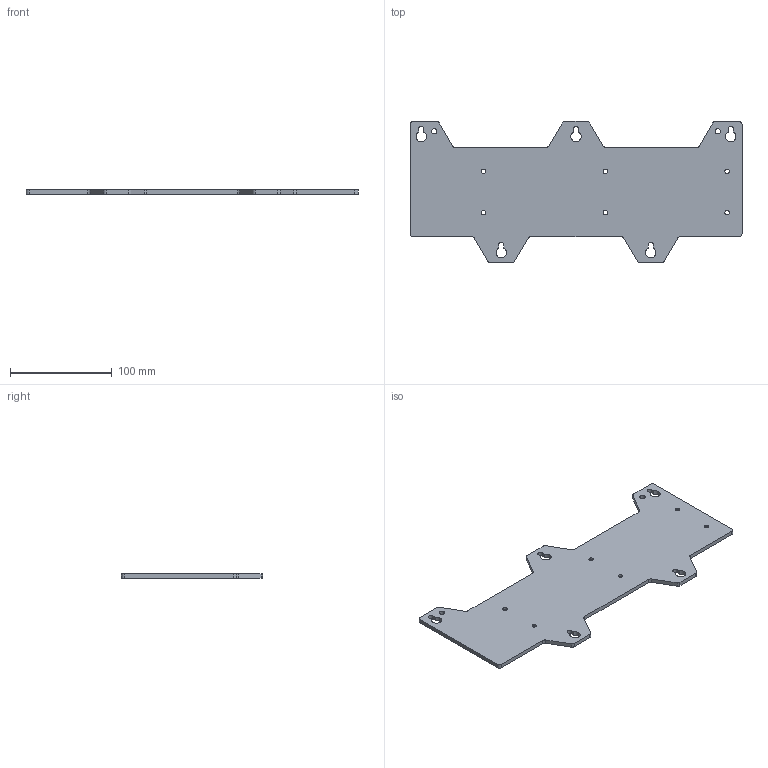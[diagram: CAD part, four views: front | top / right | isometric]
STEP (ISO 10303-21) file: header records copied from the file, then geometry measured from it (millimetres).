
FILE_DESCRIPTION((''),'2;1');
FILE_NAME('CU_PANEL_MOUNT_SMASHER_8SLOT','2015-03-11T',('jbuhisan'),(''),'PRO/ENGINEER BY PARAMETRIC TECHNOLOGY CORPORATION, 2014000','PRO/ENGINEER BY PARAMETRIC TECHNOLOGY CORPORATION, 2014000','');
FILE_SCHEMA(('CONFIG_CONTROL_DESIGN'));
Length unit declared in the file: inch
Products named in the file (1): CU_PANEL_MOUNT_SMASHER_8SLOT
Bounding box: 327.02 x 138.94 x 4 mm (x, y, z)
Volume: 131712.4 mm3; surface area: 71164.4 mm2
Topology: 1 solids, 1 shells, 90 faces, 252 edges, 164 vertices
Faces by surface type: cylinder 46, plane 32, cone 12
Entity records: 3016 total; most frequent: DIRECTION 536, CARTESIAN_POINT 506, ORIENTED_EDGE 504, EDGE_CURVE 252, AXIS2_PLACEMENT_3D 194, VERTEX_POINT 164, VECTOR 148, LINE 148
